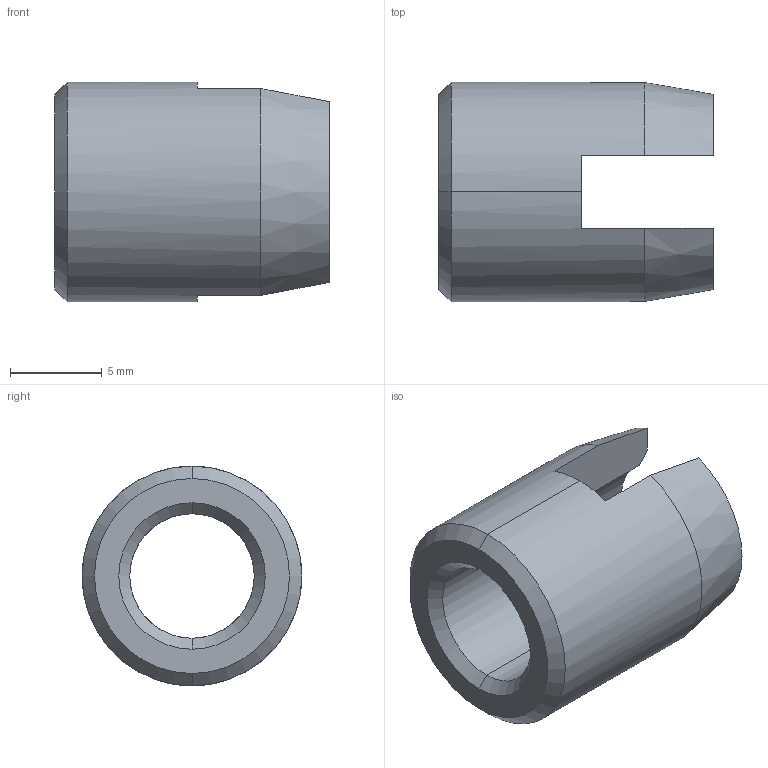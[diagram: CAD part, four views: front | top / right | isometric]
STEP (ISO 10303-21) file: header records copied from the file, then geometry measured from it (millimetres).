
FILE_DESCRIPTION (( 'STEP AP203' ), '1' );
FILE_NAME ('FSUK-SCR-M08.STEP', '2021-04-14T09:50:27', ( '' ), ( '' ), 'SwSTEP 2.0', 'SolidWorks 2021', '' );
FILE_SCHEMA (( 'CONFIG_CONTROL_DESIGN' ));
Length unit declared in the file: millimetre
Products named in the file (1): FSUK-SCR-M08
Bounding box: 15 x 12 x 12 mm (x, y, z)
Volume: 946 mm3; surface area: 945.2 mm2
Topology: 1 solids, 1 shells, 21 faces, 56 edges, 36 vertices
Faces by surface type: plane 9, cone 8, cylinder 4
Entity records: 751 total; most frequent: CARTESIAN_POINT 138, DIRECTION 116, ORIENTED_EDGE 112, EDGE_CURVE 56, AXIS2_PLACEMENT_3D 46, VERTEX_POINT 36, VECTOR 24, CIRCLE 24
